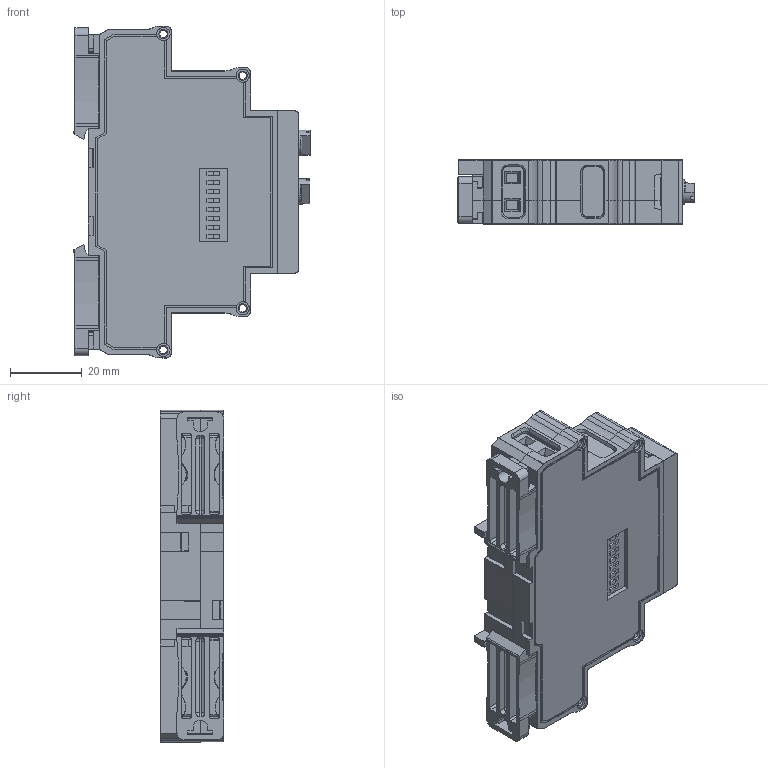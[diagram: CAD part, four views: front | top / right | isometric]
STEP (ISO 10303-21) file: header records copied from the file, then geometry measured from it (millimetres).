
FILE_DESCRIPTION(('STEP AP242'), '1');
FILE_NAME('ﾑ碚濱ﾐﾊﾍ-1ﾌ-15_2025_2', '', ('UNSPECIFIED'), ('UNSPECIFIED'), 'C3D Converter', 'C3D Toolkit', '');
FILE_SCHEMA(('AP242_MANAGED_MODEL_BASED_3D_ENGINEERING_MIM_LF { 1 0 10303 442 1 1 4 }'));
Length unit declared in the file: millimetre
Products named in the file (16): Case_UC1-2sR-2024_SimpleModel_6mm_DIPsw; Case_UC1-2sR-2024_SimpleModel_11mm; UC1-2sR-2024_Plug_18mm; Case_UC1-2sR_Face_2024_18mm__FR.FP.0000043; Case13-18-23mm_2step_Lock_v01a_Build20140909_1552; R-knob_2017_Hex2mm__Џｮ гｬｮｫзｭЁо; DG128-5.08_Configurable_5.08x3
Assembly tree (18 placements, depth 2):
  (unnamed)
    Case_UC1-2sR-2024_SimpleModel_6mm_DIPsw
    Case_UC1-2sR-2024_SimpleModel_11mm
    UC1-2sR-2024_Plug_18mm  x2
    Case_UC1-2sR_Face_2024_18mm__FR.FP.0000043
    Case13-18-23mm_2step_Lock_v01a_Build20140909_1552  x2
    R-knob_2017_Hex2mm__Џｮ гｬｮｫзｭЁо  x2
    (unnamed)
    (unnamed)
    (unnamed)
    DG128-5.08_Configurable_5.08x3
    (unnamed)
    (unnamed)
    (unnamed)
    (unnamed)
    (unnamed)
Bounding box: 65.73 x 17.75 x 92.4 mm (x, y, z)
Volume: 23647.5 mm3; surface area: 36969.6 mm2
Topology: 58 solids, 58 shells, 4546 faces, 12588 edges, 8160 vertices
Faces by surface type: plane 3395, cylinder 481, extrusion 382, torus 142, cone 74, sphere 36, bspline 36
Full cylindrical faces by diameter (mm): 1.238 x3, 2.1 x10, 2.2 x2, 3.7 x8, 3.9 x5, 4.5 x2, 5 x2
Entity records: 173948 total; most frequent: CARTESIAN_POINT 30622, ORIENTED_EDGE 23750, DIRECTION 20107, EDGE_CURVE 11875, VECTOR 10401, LINE 10019, VERTEX_POINT 7777, AXIS2_PLACEMENT_3D 4853
